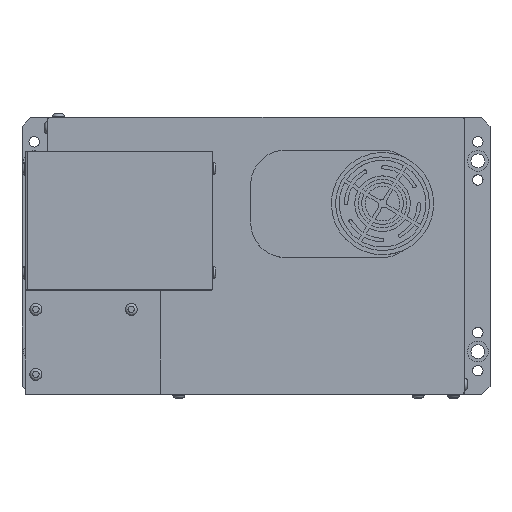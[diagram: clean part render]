
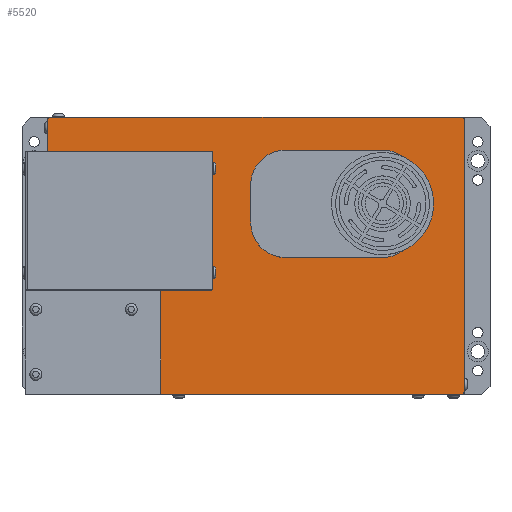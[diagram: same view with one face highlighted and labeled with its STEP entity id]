
A CAD part, top view. The second image highlights one B-rep face of the part: STEP entity #5520.
In plain terms, the highlighted planar face has unit normal (0, 0, 1).
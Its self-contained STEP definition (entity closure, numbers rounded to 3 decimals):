
#101=FACE_BOUND('',#903,.T.);
#253=PLANE('',#5955);
#509=FACE_OUTER_BOUND('',#902,.T.);
#902=EDGE_LOOP('',(#4147,#4148,#4149,#4150,#4151,#4152,#4153,#4154,#4155,
#4156,#4157,#4158));
#903=EDGE_LOOP('',(#4159,#4160,#4161,#4162,#4163,#4164,#4165,#4166));
#1253=LINE('',#8179,#1748);
#1307=LINE('',#8479,#1802);
#1312=LINE('',#8494,#1807);
#1316=LINE('',#8506,#1811);
#1320=LINE('',#8518,#1815);
#1323=LINE('',#8527,#1818);
#1326=LINE('',#8535,#1821);
#1329=LINE('',#8539,#1824);
#1333=LINE('',#8553,#1828);
#1337=LINE('',#8565,#1832);
#1341=LINE('',#8577,#1836);
#1344=LINE('',#8581,#1839);
#1345=LINE('',#8583,#1840);
#1748=VECTOR('',#6453,53.01);
#1802=VECTOR('',#6809,1.02);
#1807=VECTOR('',#6822,56.);
#1811=VECTOR('',#6834,22.);
#1815=VECTOR('',#6846,56.);
#1818=VECTOR('',#6857,22.);
#1821=VECTOR('',#6862,10.99);
#1824=VECTOR('',#6867,60.99);
#1828=VECTOR('',#6879,238.01);
#1832=VECTOR('',#6891,157.98);
#1836=VECTOR('',#6903,173.99);
#1839=VECTOR('',#6908,79.);
#1840=VECTOR('',#6911,18.99);
#2281=CIRCLE('',#5926,20.);
#2283=CIRCLE('',#5930,20.);
#2285=CIRCLE('',#5934,20.);
#2287=CIRCLE('',#5938,20.);
#2289=CIRCLE('',#5944,1.);
#2291=CIRCLE('',#5948,1.);
#2293=CIRCLE('',#5952,1.);
#2507=VERTEX_POINT('',#8176);
#2508=VERTEX_POINT('',#8178);
#2603=VERTEX_POINT('',#8477);
#2606=VERTEX_POINT('',#8484);
#2607=VERTEX_POINT('',#8486);
#2609=VERTEX_POINT('',#8492);
#2611=VERTEX_POINT('',#8498);
#2613=VERTEX_POINT('',#8504);
#2615=VERTEX_POINT('',#8510);
#2617=VERTEX_POINT('',#8516);
#2619=VERTEX_POINT('',#8522);
#2622=VERTEX_POINT('',#8532);
#2623=VERTEX_POINT('',#8534);
#2626=VERTEX_POINT('',#8544);
#2627=VERTEX_POINT('',#8546);
#2629=VERTEX_POINT('',#8552);
#2631=VERTEX_POINT('',#8558);
#2633=VERTEX_POINT('',#8564);
#2635=VERTEX_POINT('',#8570);
#2637=VERTEX_POINT('',#8576);
#3060=EDGE_CURVE('',#2508,#2507,#1253,.T.);
#3178=EDGE_CURVE('',#2507,#2603,#1307,.T.);
#3181=EDGE_CURVE('',#2607,#2606,#2281,.T.);
#3185=EDGE_CURVE('',#2606,#2609,#1312,.T.);
#3188=EDGE_CURVE('',#2609,#2611,#2283,.T.);
#3191=EDGE_CURVE('',#2611,#2613,#1316,.T.);
#3194=EDGE_CURVE('',#2613,#2615,#2285,.T.);
#3197=EDGE_CURVE('',#2615,#2617,#1320,.T.);
#3200=EDGE_CURVE('',#2617,#2619,#2287,.T.);
#3202=EDGE_CURVE('',#2619,#2607,#1323,.T.);
#3205=EDGE_CURVE('',#2623,#2622,#1326,.T.);
#3208=EDGE_CURVE('',#2603,#2623,#1329,.T.);
#3211=EDGE_CURVE('',#2627,#2626,#2289,.T.);
#3214=EDGE_CURVE('',#2629,#2627,#1333,.T.);
#3217=EDGE_CURVE('',#2631,#2629,#2291,.T.);
#3220=EDGE_CURVE('',#2633,#2631,#1337,.T.);
#3223=EDGE_CURVE('',#2635,#2633,#2293,.T.);
#3226=EDGE_CURVE('',#2637,#2635,#1341,.T.);
#3229=EDGE_CURVE('',#2622,#2637,#1344,.T.);
#3230=EDGE_CURVE('',#2626,#2508,#1345,.T.);
#4147=ORIENTED_EDGE('',*,*,#3229,.T.);
#4148=ORIENTED_EDGE('',*,*,#3226,.T.);
#4149=ORIENTED_EDGE('',*,*,#3223,.T.);
#4150=ORIENTED_EDGE('',*,*,#3220,.T.);
#4151=ORIENTED_EDGE('',*,*,#3217,.T.);
#4152=ORIENTED_EDGE('',*,*,#3214,.T.);
#4153=ORIENTED_EDGE('',*,*,#3211,.T.);
#4154=ORIENTED_EDGE('',*,*,#3230,.T.);
#4155=ORIENTED_EDGE('',*,*,#3060,.T.);
#4156=ORIENTED_EDGE('',*,*,#3178,.T.);
#4157=ORIENTED_EDGE('',*,*,#3208,.T.);
#4158=ORIENTED_EDGE('',*,*,#3205,.T.);
#4159=ORIENTED_EDGE('',*,*,#3181,.T.);
#4160=ORIENTED_EDGE('',*,*,#3185,.T.);
#4161=ORIENTED_EDGE('',*,*,#3188,.T.);
#4162=ORIENTED_EDGE('',*,*,#3191,.T.);
#4163=ORIENTED_EDGE('',*,*,#3194,.T.);
#4164=ORIENTED_EDGE('',*,*,#3197,.T.);
#4165=ORIENTED_EDGE('',*,*,#3200,.T.);
#4166=ORIENTED_EDGE('',*,*,#3202,.T.);
#5520=ADVANCED_FACE('',(#509,#101),#253,.T.);
#5926=AXIS2_PLACEMENT_3D('',#8487,#6815,#6816);
#5930=AXIS2_PLACEMENT_3D('',#8500,#6828,#6829);
#5934=AXIS2_PLACEMENT_3D('',#8512,#6840,#6841);
#5938=AXIS2_PLACEMENT_3D('',#8524,#6852,#6853);
#5944=AXIS2_PLACEMENT_3D('',#8547,#6873,#6874);
#5948=AXIS2_PLACEMENT_3D('',#8559,#6885,#6886);
#5952=AXIS2_PLACEMENT_3D('',#8571,#6897,#6898);
#5955=AXIS2_PLACEMENT_3D('',#8582,#6909,#6910);
#6453=DIRECTION('',(1.,0.,0.));
#6809=DIRECTION('',(1.,0.,0.));
#6815=DIRECTION('center_axis',(0.,0.,
-1.));
#6816=DIRECTION('ref_axis',(0.,1.,0.));
#6822=DIRECTION('',(-1.,0.,0.));
#6828=DIRECTION('center_axis',(0.,0.,
-1.));
#6829=DIRECTION('ref_axis',(0.996,-0.09,0.));
#6834=DIRECTION('',(0.,1.,0.));
#6840=DIRECTION('center_axis',(0.,0.,
-1.));
#6841=DIRECTION('ref_axis',(0.,-1.,0.));
#6846=DIRECTION('',(1.,0.,0.));
#6852=DIRECTION('center_axis',(0.,0.,
-1.));
#6853=DIRECTION('ref_axis',(-1.,0.,0.));
#6857=DIRECTION('',(0.,-1.,0.));
#6862=DIRECTION('',(1.,0.,0.));
#6867=DIRECTION('',(0.,-1.,0.));
#6873=DIRECTION('center_axis',(0.,0.,
1.));
#6874=DIRECTION('ref_axis',(0.,1.,0.));
#6879=DIRECTION('',(-1.,0.,0.));
#6885=DIRECTION('center_axis',(0.,0.,
1.));
#6886=DIRECTION('ref_axis',(1.,0.,0.));
#6891=DIRECTION('',(0.,1.,0.));
#6897=DIRECTION('center_axis',(0.,0.,
1.));
#6898=DIRECTION('ref_axis',(0.,-1.,0.));
#6903=DIRECTION('',(1.,0.,0.));
#6908=DIRECTION('',(0.,-1.,0.));
#6909=DIRECTION('center_axis',(0.,0.,
1.));
#6910=DIRECTION('ref_axis',(1.,0.,0.));
#6911=DIRECTION('',(0.,-1.,0.));
#8176=CARTESIAN_POINT('',(-202.,-20.,171.));
#8178=CARTESIAN_POINT('',(-255.01,-20.,171.));
#8179=CARTESIAN_POINT('',(-255.01,-20.,171.));
#8477=CARTESIAN_POINT('',(-200.98,-20.,171.));
#8479=CARTESIAN_POINT('',(-255.01,-20.,171.));
#8484=CARTESIAN_POINT('',(-62.,-81.,171.));
#8486=CARTESIAN_POINT('',(-42.,-61.,171.));
#8487=CARTESIAN_POINT('Origin',(-62.,-61.,171.));
#8492=CARTESIAN_POINT('',(-118.,-81.,171.));
#8494=CARTESIAN_POINT('',(-121.278,-81.,171.));
#8498=CARTESIAN_POINT('',(-137.919,-59.203,171.));
#8500=CARTESIAN_POINT('Origin',(-118.,-61.,171.));
#8504=CARTESIAN_POINT('',(-137.919,-37.203,171.));
#8506=CARTESIAN_POINT('',(-137.919,-53.356,171.));
#8510=CARTESIAN_POINT('',(-118.,-19.,171.));
#8512=CARTESIAN_POINT('Origin',(-118.,-39.,171.));
#8516=CARTESIAN_POINT('',(-62.,-19.,171.));
#8518=CARTESIAN_POINT('',(-93.278,-19.,171.));
#8522=CARTESIAN_POINT('',(-42.,-39.,171.));
#8524=CARTESIAN_POINT('Origin',(-62.,-39.,171.));
#8527=CARTESIAN_POINT('',(-42.,-65.255,171.));
#8532=CARTESIAN_POINT('',(-189.99,-80.99,171.));
#8534=CARTESIAN_POINT('',(-200.98,-80.99,171.));
#8535=CARTESIAN_POINT('',(-200.98,-80.99,171.));
#8539=CARTESIAN_POINT('',(-200.98,-20.,171.));
#8544=CARTESIAN_POINT('',(-255.01,-1.01,171.));
#8546=CARTESIAN_POINT('',(-254.01,-0.01,171.));
#8547=CARTESIAN_POINT('Origin',(-254.01,-1.01,171.));
#8552=CARTESIAN_POINT('',(-16.,-0.01,171.));
#8553=CARTESIAN_POINT('',(-16.,-0.01,171.));
#8558=CARTESIAN_POINT('',(-15.,-1.01,171.));
#8559=CARTESIAN_POINT('Origin',(-16.,-1.01,171.));
#8564=CARTESIAN_POINT('',(-15.,-158.99,171.));
#8565=CARTESIAN_POINT('',(-15.,-158.99,171.));
#8570=CARTESIAN_POINT('',(-16.,-159.99,171.));
#8571=CARTESIAN_POINT('Origin',(-16.,-158.99,171.));
#8576=CARTESIAN_POINT('',(-189.99,-159.99,171.));
#8577=CARTESIAN_POINT('',(-189.99,-159.99,171.));
#8581=CARTESIAN_POINT('',(-189.99,-80.99,171.));
#8582=CARTESIAN_POINT('Origin',(-124.556,-69.51,171.));
#8583=CARTESIAN_POINT('',(-255.01,-1.01,171.));
